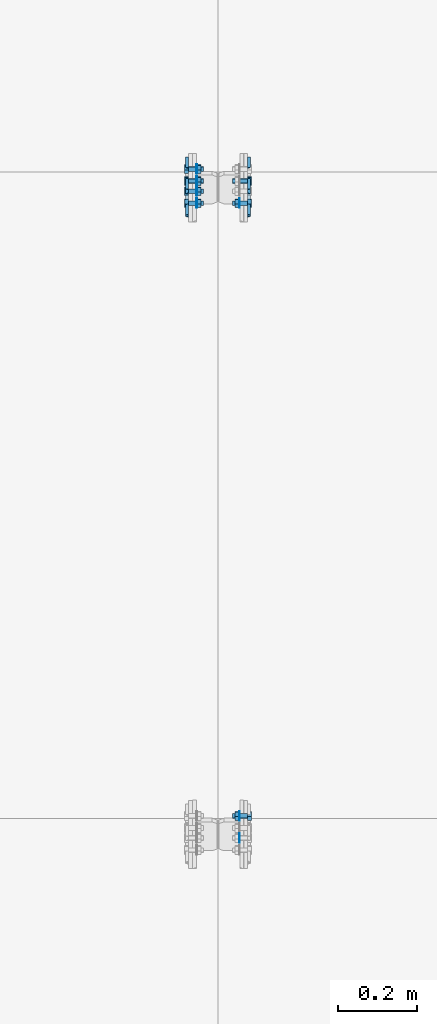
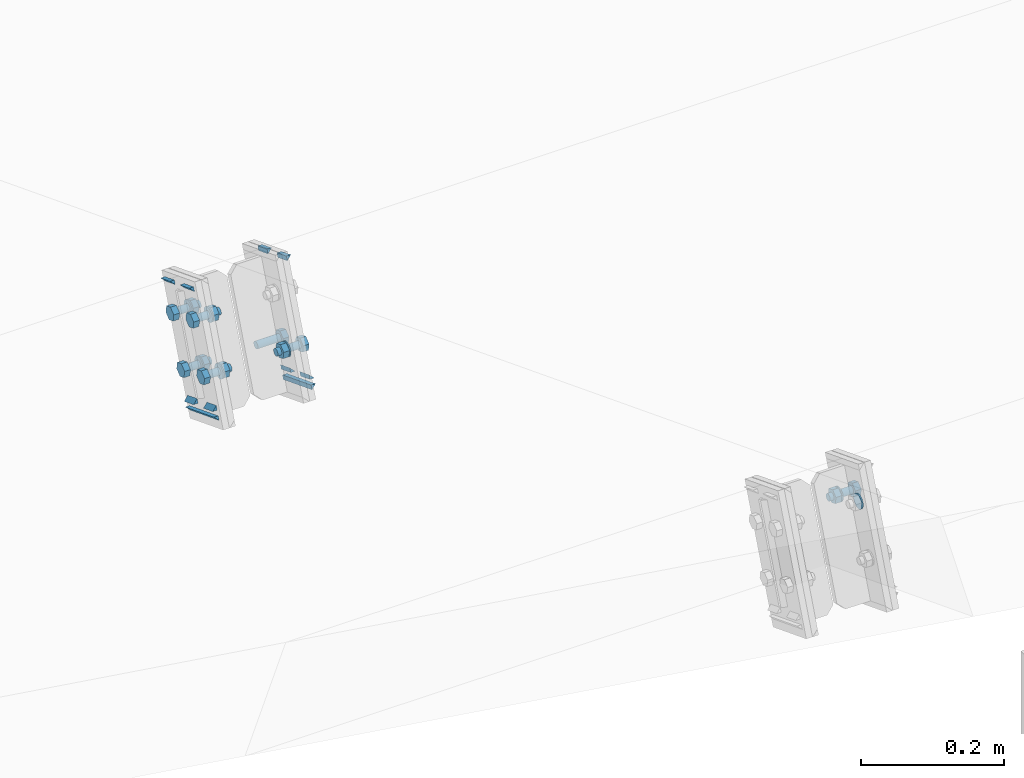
# One storey, part 38 of 72: 27 mechanical fasteners, 20 fasteners.
"""IFC4 building model written with IfcOpenShell, lengths in metres."""

from ifc_helpers import new_model, si_unit, frame, origin_with_axes, place, context, project, spatial, polyline, outline, extrude, type_object, element, save


model = new_model("IFC4")

# Units and contexts
model_context = context("Model", 3, precision=1e-05, world=origin_with_axes())
ifc_project = project(units=[si_unit("LENGTHUNIT", "METRE"), si_unit("AREAUNIT", "SQUARE_METRE"), si_unit("VOLUMEUNIT", "CUBIC_METRE"), si_unit("MASSUNIT", "GRAM", prefix="KILO"), si_unit("TIMEUNIT", "SECOND"), si_unit("PLANEANGLEUNIT", "RADIAN"), si_unit("SOLIDANGLEUNIT", "STERADIAN"), si_unit("THERMODYNAMICTEMPERATUREUNIT", "DEGREE_CELSIUS")], contexts=[model_context])

# Site, building, storey
placement_1 = place(None, origin_with_axes())
site = spatial("IfcSite", under=ifc_project, at=placement_1, Name="Italia", CompositionType="ELEMENT")
building = spatial("IfcBuilding", under=site, at=placement_1, Name="Uffici", CompositionType="ELEMENT")
storey = spatial("IfcBuildingStorey", under=building, at=placement_1, Name="Storey 0", CompositionType="ELEMENT", Elevation=0.0)

# Fasteners
fastener_type_1 = type_object("IfcFastenerType", Name="Collegamento -018_-017", PredefinedType="WELD")
placement_2 = place(placement_1, origin_with_axes())
fastener_1_placement = place(placement_2, origin_with_axes())
element("IfcFastener", 1, at=fastener_1_placement, inside=storey, type_object=fastener_type_1, Name="Collegamento -018_-017", context=model_context, shape_type="SweptSolid", body=[
    extrude(outline(polyline([(0.0, 0.0), (-0.00717354, 0.00695848), (0.0, 0.00695848), (0.0, 0.0)])), frame((6.68005, 3.30124, 5.94341), z_axis=(0.0, -0.93237841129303, 0.361483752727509), x_axis=(1.0, 0.0, 0.0)), (0.0, 0.0, 1.0), 0.0283002),
])
fastener_type_2 = type_object("IfcFastenerType", Name="Collegamento -018_-017", PredefinedType="WELD")
fastener_2_placement = place(placement_2, origin_with_axes())
element("IfcFastener", 2, at=fastener_2_placement, inside=storey, type_object=fastener_type_2, Name="Collegamento -018_-017", context=model_context, shape_type="SweptSolid", body=[
    extrude(outline(polyline([(0.0, 0.0), (0.00717354, -0.00695848), (0.0, -0.00695848), (0.0, 0.0)])), frame((6.68005, 3.2137, 5.79589), z_axis=(0.0, 0.932389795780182, -0.361454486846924), x_axis=(-1.0, 0.0, 0.0)), (0.0, 0.0, 1.0), 0.0282999),
])
fastener_type_3 = type_object("IfcFastenerType", Name="Collegamento -018_-017", PredefinedType="WELD")
fastener_3_placement = place(placement_2, origin_with_axes())
element("IfcFastener", 3, at=fastener_3_placement, inside=storey, type_object=fastener_type_3, Name="Collegamento -018_-017", context=model_context, shape_type="SweptSolid", body=[
    extrude(outline(polyline([(0.0, 0.0), (-0.00717354, 0.00695848), (0.0, 0.00695848), (0.0, 0.0)])), frame((6.68005, 3.23202, 5.76485), z_axis=(0.0, -0.932387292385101, 0.361460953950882), x_axis=(1.0, 0.0, 0.0)), (0.0, 0.0, 1.0), 0.0860998),
])
fastener_type_4 = type_object("IfcFastenerType", Name="Collegamento -018_-017", PredefinedType="WELD")
fastener_4_placement = place(placement_2, origin_with_axes())
element("IfcFastener", 4, at=fastener_4_placement, inside=storey, type_object=fastener_type_4, Name="Collegamento -018_-017", context=model_context, shape_type="SweptSolid", body=[
    extrude(outline(polyline([(0.0, 0.0), (0.00717354, -0.00695801), (0.0, -0.00695801), (0.0, 0.0)])), frame((6.68005, 3.1598, 5.81678), z_axis=(0.0, 0.932380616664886, -0.361478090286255), x_axis=(-1.0, 0.0, 0.0)), (0.0, 0.0, 1.0), 0.0283007),
])
fastener_type_5 = type_object("IfcFastenerType", Name="Collegamento -018_-017", PredefinedType="WELD")
fastener_5_placement = place(placement_2, origin_with_axes())
element("IfcFastener", 5, at=fastener_5_placement, inside=storey, type_object=fastener_type_5, Name="Collegamento -018_-017", context=model_context, shape_type="SweptSolid", body=[
    extrude(outline(polyline([(0.0, 0.0), (-0.00717354, 0.00695801), (0.0, 0.00695801), (0.0, 0.0)])), frame((6.68005, 3.24734, 5.9643), z_axis=(0.0, -0.932387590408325, 0.361460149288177), x_axis=(1.0, 0.0, 0.0)), (0.0, 0.0, 1.0), 0.0282994),
])
fastener_type_6 = type_object("IfcFastenerType", Name="Collegamento -018_-017", PredefinedType="WELD")
fastener_6_placement = place(placement_2, origin_with_axes())
element("IfcFastener", 6, at=fastener_6_placement, inside=storey, type_object=fastener_type_6, Name="Collegamento -018_-017", context=model_context, shape_type="SweptSolid", body=[
    extrude(outline(polyline([(0.0, 0.0), (-0.00717354, 0.00695848), (0.0, 0.00695848), (0.0, 0.0)])), frame((6.68005, 3.30124, 5.94341), z_axis=(0.0, -0.93237841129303, 0.361483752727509), x_axis=(1.0, 0.0, 0.0)), (0.0, 0.0, 1.0), 0.0283002),
])
fastener_type_7 = type_object("IfcFastenerType", Name="Collegamento -018_-017", PredefinedType="WELD")
fastener_7_placement = place(placement_2, origin_with_axes())
element("IfcFastener", 7, at=fastener_7_placement, inside=storey, type_object=fastener_type_7, Name="Collegamento -018_-017", context=model_context, shape_type="SweptSolid", body=[
    extrude(outline(polyline([(0.0, 0.0), (0.00717354, -0.00695848), (0.0, -0.00695848), (0.0, 0.0)])), frame((6.68005, 3.2137, 5.79589), z_axis=(0.0, 0.932389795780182, -0.361454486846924), x_axis=(-1.0, 0.0, 0.0)), (0.0, 0.0, 1.0), 0.0282999),
])
fastener_type_8 = type_object("IfcFastenerType", Name="Collegamento -018_-017", PredefinedType="WELD")
fastener_8_placement = place(placement_2, origin_with_axes())
element("IfcFastener", 8, at=fastener_8_placement, inside=storey, type_object=fastener_type_8, Name="Collegamento -018_-017", context=model_context, shape_type="SweptSolid", body=[
    extrude(outline(polyline([(0.0, 0.0), (-0.00717354, 0.00695848), (0.0, 0.00695848), (0.0, 0.0)])), frame((6.68005, 3.23202, 5.76485), z_axis=(0.0, -0.932387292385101, 0.361460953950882), x_axis=(1.0, 0.0, 0.0)), (0.0, 0.0, 1.0), 0.0860998),
])
fastener_type_9 = type_object("IfcFastenerType", Name="Collegamento -018_-017", PredefinedType="WELD")
fastener_9_placement = place(placement_2, origin_with_axes())
element("IfcFastener", 9, at=fastener_9_placement, inside=storey, type_object=fastener_type_9, Name="Collegamento -018_-017", context=model_context, shape_type="SweptSolid", body=[
    extrude(outline(polyline([(0.0, 0.0), (0.00717354, -0.00695801), (0.0, -0.00695801), (0.0, 0.0)])), frame((6.68005, 3.1598, 5.81678), z_axis=(0.0, 0.932380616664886, -0.361478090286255), x_axis=(-1.0, 0.0, 0.0)), (0.0, 0.0, 1.0), 0.0283007),
])
fastener_type_10 = type_object("IfcFastenerType", Name="Collegamento -018_-017", PredefinedType="WELD")
fastener_10_placement = place(placement_2, origin_with_axes())
element("IfcFastener", 10, at=fastener_10_placement, inside=storey, type_object=fastener_type_10, Name="Collegamento -018_-017", context=model_context, shape_type="SweptSolid", body=[
    extrude(outline(polyline([(0.0, 0.0), (-0.00717354, 0.00695801), (0.0, 0.00695801), (0.0, 0.0)])), frame((6.68005, 3.24734, 5.9643), z_axis=(0.0, -0.932387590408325, 0.361460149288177), x_axis=(1.0, 0.0, 0.0)), (0.0, 0.0, 1.0), 0.0282994),
])

# Mechanical fasteners
mechanical_fastener_type_1 = type_object("IfcMechanicalFastenerType", Name="Collegamento -018_-017", PredefinedType="BOLT")
mechanical_fastener_1_placement = place(placement_2, origin_with_axes())
element("IfcMechanicalFastener", 11, at=mechanical_fastener_1_placement, inside=storey, type_object=mechanical_fastener_type_1, Name="Collegamento -018_-017", NominalDiameter=0.0119999, context=model_context, shape_type="SweptSolid", body=[
    extrude(outline(polyline([(0.0, 0.0), (-0.0111887, -0.00433731), (-0.0205395, 0.00318336), (-0.0187016, 0.0150418), (-0.00751281, 0.0193796), (0.00183773, 0.0118585), (0.0, 0.0)])), frame((6.68, 3.23396, 5.82257), z_axis=(-1.0, 0.0, 0.0), x_axis=(0.0, -1.0, 0.0)), (0.0, 0.0, 1.0), 0.00960016),
])
mechanical_fastener_type_2 = type_object("IfcMechanicalFastenerType", Name="Collegamento -018_-017", PredefinedType="BOLT")
mechanical_fastener_2_placement = place(placement_2, origin_with_axes())
element("IfcMechanicalFastener", 12, at=mechanical_fastener_2_placement, inside=storey, type_object=mechanical_fastener_type_2, Name="Collegamento -018_-017", NominalDiameter=0.012, context=model_context, shape_type="SweptSolid", body=[
    extrude(outline(polyline([(0.0, 0.0), (-0.000204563, -0.00155306), (-0.000803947, -0.00299978), (-0.00175738, -0.00424242), (-0.00300002, -0.00519609), (-0.00444722, -0.00579548), (-0.00600004, -0.00600004), (-0.00755286, -0.00579548), (-0.00900006, -0.00519609), (-0.0102427, -0.00424242), (-0.0111961, -0.00299978), (-0.0117955, -0.00155306), (-0.0120001, 0.0), (-0.0117955, 0.00155306), (-0.0111961, 0.00299978), (-0.0102427, 0.00424242), (-0.00900006, 0.00519609), (-0.00755286, 0.00579548), (-0.00600004, 0.00600004), (-0.00444722, 0.00579548), (-0.00300002, 0.00519609), (-0.00175738, 0.00424242), (-0.000803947, 0.00299978), (-0.000204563, 0.00155306), (0.0, 0.0)])), frame((6.718, 3.23731, 5.83009), z_axis=(-1.0, 0.0, 0.0), x_axis=(0.0, -1.0, 0.0)), (0.0, 0.0, 1.0), 0.0380001),
])
mechanical_fastener_type_3 = type_object("IfcMechanicalFastenerType", Name="Collegamento -018_-017", PredefinedType="BOLT")
mechanical_fastener_3_placement = place(placement_2, origin_with_axes())
element("IfcMechanicalFastener", 13, at=mechanical_fastener_3_placement, inside=storey, type_object=mechanical_fastener_type_3, Name="Collegamento -018_-017", NominalDiameter=0.0119999, context=model_context, shape_type="SweptSolid", body=[
    extrude(outline(polyline([(0.0, 0.0), (-0.0111887, -0.00433731), (-0.0205395, 0.00318336), (-0.0187016, 0.0150418), (-0.00751281, 0.0193796), (0.00183773, 0.0118585), (0.0, 0.0)])), frame((6.7116, 3.23396, 5.82257), z_axis=(-1.0, 0.0, 0.0), x_axis=(0.0, -1.0, 0.0)), (0.0, 0.0, 1.0), 0.00960016),
])
mechanical_fastener_type_4 = type_object("IfcMechanicalFastenerType", Name="Collegamento -018_-017", PredefinedType="BOLT")
mechanical_fastener_4_placement = place(placement_2, origin_with_axes())
element("IfcMechanicalFastener", 14, at=mechanical_fastener_4_placement, inside=storey, type_object=mechanical_fastener_type_4, Name="Collegamento -018_-017", NominalDiameter=0.024, context=model_context, shape_type="SweptSolid", body=[
    extrude(outline(polyline([(0.0, 0.0), (-0.000408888, -0.00310564), (-0.00160789, -0.00600004), (-0.00351477, -0.00848532), (-0.00600004, -0.0103922), (-0.00889421, -0.011591), (-0.0120001, -0.0120001), (-0.015106, -0.011591), (-0.0180001, -0.0103922), (-0.0204854, -0.00848532), (-0.0223923, -0.00600004), (-0.0235913, -0.00310564), (-0.0240002, 0.0), (-0.0235913, 0.00310564), (-0.0223923, 0.00600004), (-0.0204854, 0.00848532), (-0.0180001, 0.0103922), (-0.015106, 0.011591), (-0.0120001, 0.0120001), (-0.00889421, 0.011591), (-0.00600004, 0.0103922), (-0.00351477, 0.00848532), (-0.00160789, 0.00600004), (-0.000408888, 0.00310564), (0.0, 0.0)])), frame((6.702, 3.23131, 5.83009), z_axis=(-1.0, 0.0, 0.0), x_axis=(0.0, -1.0, 0.0)), (0.0, 0.0, 1.0), 0.00199986),
])
mechanical_fastener_type_5 = type_object("IfcMechanicalFastenerType", Name="Collegamento -018_-017", PredefinedType="BOLT")
mechanical_fastener_5_placement = place(placement_2, origin_with_axes())
element("IfcMechanicalFastener", 15, at=mechanical_fastener_5_placement, inside=storey, type_object=mechanical_fastener_type_5, Name="Collegamento -018_-017", NominalDiameter=0.0119997, context=model_context, shape_type="SweptSolid", body=[
    extrude(outline(polyline([(0.0, 0.0), (-0.0111887, -0.00433779), (-0.0205395, 0.00318336), (-0.0187016, 0.0150418), (-0.00751281, 0.0193791), (0.00183773, 0.0118585), (0.0, 0.0)])), frame((6.68, 3.17802, 5.84426), z_axis=(-1.0, 0.0, 0.0), x_axis=(0.0, -1.0, 0.0)), (0.0, 0.0, 1.0), 0.00960016),
])
mechanical_fastener_type_6 = type_object("IfcMechanicalFastenerType", Name="Collegamento -018_-017", PredefinedType="BOLT")
mechanical_fastener_6_placement = place(placement_2, origin_with_axes())
element("IfcMechanicalFastener", 16, at=mechanical_fastener_6_placement, inside=storey, type_object=mechanical_fastener_type_6, Name="Collegamento -018_-017", NominalDiameter=0.012, context=model_context, shape_type="SweptSolid", body=[
    extrude(outline(polyline([(0.0, 0.0), (-0.000204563, -0.00155306), (-0.000803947, -0.00299978), (-0.00175738, -0.00424242), (-0.00300002, -0.00519609), (-0.00444722, -0.00579548), (-0.00600004, -0.00600004), (-0.00755286, -0.00579548), (-0.00900006, -0.00519609), (-0.0102427, -0.00424242), (-0.0111961, -0.00299978), (-0.0117955, -0.00155306), (-0.0120001, 0.0), (-0.0117955, 0.00155306), (-0.0111961, 0.00299978), (-0.0102427, 0.00424242), (-0.00900006, 0.00519609), (-0.00755286, 0.00579548), (-0.00600004, 0.00600004), (-0.00444722, 0.00579548), (-0.00300002, 0.00519609), (-0.00175738, 0.00424242), (-0.000803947, 0.00299978), (-0.000204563, 0.00155306), (0.0, 0.0)])), frame((6.718, 3.18137, 5.85178), z_axis=(-1.0, 0.0, 0.0), x_axis=(0.0, -1.0, 0.0)), (0.0, 0.0, 1.0), 0.0380001),
])
mechanical_fastener_type_7 = type_object("IfcMechanicalFastenerType", Name="Collegamento -018_-017", PredefinedType="BOLT")
mechanical_fastener_7_placement = place(placement_2, origin_with_axes())
element("IfcMechanicalFastener", 17, at=mechanical_fastener_7_placement, inside=storey, type_object=mechanical_fastener_type_7, Name="Collegamento -018_-017", NominalDiameter=0.0119997, context=model_context, shape_type="SweptSolid", body=[
    extrude(outline(polyline([(0.0, 0.0), (-0.0111887, -0.00433779), (-0.0205395, 0.00318336), (-0.0187016, 0.0150418), (-0.00751281, 0.0193791), (0.00183773, 0.0118585), (0.0, 0.0)])), frame((6.7116, 3.17802, 5.84426), z_axis=(-1.0, 0.0, 0.0), x_axis=(0.0, -1.0, 0.0)), (0.0, 0.0, 1.0), 0.00960016),
])
mechanical_fastener_type_8 = type_object("IfcMechanicalFastenerType", Name="Collegamento -018_-017", PredefinedType="BOLT")
mechanical_fastener_8_placement = place(placement_2, origin_with_axes())
element("IfcMechanicalFastener", 18, at=mechanical_fastener_8_placement, inside=storey, type_object=mechanical_fastener_type_8, Name="Collegamento -018_-017", NominalDiameter=0.024, context=model_context, shape_type="SweptSolid", body=[
    extrude(outline(polyline([(0.0, 0.0), (-0.000408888, -0.00310564), (-0.00160789, -0.00600004), (-0.00351477, -0.00848532), (-0.00600004, -0.0103922), (-0.00889421, -0.011591), (-0.0120001, -0.0120001), (-0.015106, -0.011591), (-0.0180001, -0.0103922), (-0.0204854, -0.00848532), (-0.0223923, -0.00600004), (-0.0235913, -0.00310564), (-0.0240002, 0.0), (-0.0235913, 0.00310564), (-0.0223923, 0.00600004), (-0.0204854, 0.00848532), (-0.0180001, 0.0103922), (-0.015106, 0.011591), (-0.0120001, 0.0120001), (-0.00889421, 0.011591), (-0.00600004, 0.0103922), (-0.00351477, 0.00848532), (-0.00160789, 0.00600004), (-0.000408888, 0.00310564), (0.0, 0.0)])), frame((6.702, 3.17537, 5.85178), z_axis=(-1.0, 0.0, 0.0), x_axis=(0.0, -1.0, 0.0)), (0.0, 0.0, 1.0), 0.00199986),
])
mechanical_fastener_type_9 = type_object("IfcMechanicalFastenerType", Name="Collegamento -018_-017", PredefinedType="BOLT")
mechanical_fastener_9_placement = place(placement_2, origin_with_axes())
element("IfcMechanicalFastener", 19, at=mechanical_fastener_9_placement, inside=storey, type_object=mechanical_fastener_type_9, Name="Collegamento -018_-017", NominalDiameter=0.0119997, context=model_context, shape_type="SweptSolid", body=[
    extrude(outline(polyline([(0.0, 0.0), (-0.0111887, -0.00433731), (-0.0205393, 0.00318336), (-0.0187016, 0.0150418), (-0.00751281, 0.0193796), (0.00183797, 0.0118585), (0.0, 0.0)])), frame((6.68, 3.26432, 5.90089), z_axis=(-1.0, 0.0, 0.0), x_axis=(0.0, -1.0, 0.0)), (0.0, 0.0, 1.0), 0.00960016),
])
mechanical_fastener_type_10 = type_object("IfcMechanicalFastenerType", Name="Collegamento -018_-017", PredefinedType="BOLT")
mechanical_fastener_10_placement = place(placement_2, origin_with_axes())
element("IfcMechanicalFastener", 20, at=mechanical_fastener_10_placement, inside=storey, type_object=mechanical_fastener_type_10, Name="Collegamento -018_-017", NominalDiameter=0.012, context=model_context, shape_type="SweptSolid", body=[
    extrude(outline(polyline([(0.0, 0.0), (-0.000204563, -0.00155306), (-0.000803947, -0.00299978), (-0.00175738, -0.00424242), (-0.00300002, -0.00519609), (-0.00444722, -0.00579548), (-0.00600004, -0.00600004), (-0.00755286, -0.00579548), (-0.00900006, -0.00519609), (-0.0102427, -0.00424242), (-0.0111961, -0.00299978), (-0.0117955, -0.00155306), (-0.0120001, 0.0), (-0.0117955, 0.00155306), (-0.0111961, 0.00299978), (-0.0102427, 0.00424242), (-0.00900006, 0.00519609), (-0.00755286, 0.00579548), (-0.00600004, 0.00600004), (-0.00444722, 0.00579548), (-0.00300002, 0.00519609), (-0.00175738, 0.00424242), (-0.000803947, 0.00299978), (-0.000204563, 0.00155306), (0.0, 0.0)])), frame((6.718, 3.26767, 5.90841), z_axis=(-1.0, 0.0, 0.0), x_axis=(0.0, -1.0, 0.0)), (0.0, 0.0, 1.0), 0.0380001),
])
mechanical_fastener_type_11 = type_object("IfcMechanicalFastenerType", Name="Collegamento -018_-017", PredefinedType="BOLT")
mechanical_fastener_11_placement = place(placement_2, origin_with_axes())
element("IfcMechanicalFastener", 21, at=mechanical_fastener_11_placement, inside=storey, type_object=mechanical_fastener_type_11, Name="Collegamento -018_-017", NominalDiameter=0.0119997, context=model_context, shape_type="SweptSolid", body=[
    extrude(outline(polyline([(0.0, 0.0), (-0.0111887, -0.00433731), (-0.0205393, 0.00318336), (-0.0187016, 0.0150418), (-0.00751281, 0.0193796), (0.00183797, 0.0118585), (0.0, 0.0)])), frame((6.7116, 3.26432, 5.90089), z_axis=(-1.0, 0.0, 0.0), x_axis=(0.0, -1.0, 0.0)), (0.0, 0.0, 1.0), 0.00960016),
])
mechanical_fastener_type_12 = type_object("IfcMechanicalFastenerType", Name="Collegamento -018_-017", PredefinedType="BOLT")
mechanical_fastener_12_placement = place(placement_2, origin_with_axes())
element("IfcMechanicalFastener", 22, at=mechanical_fastener_12_placement, inside=storey, type_object=mechanical_fastener_type_12, Name="Collegamento -018_-017", NominalDiameter=0.024, context=model_context, shape_type="SweptSolid", body=[
    extrude(outline(polyline([(0.0, 0.0), (-0.000408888, -0.00310564), (-0.00160789, -0.00600004), (-0.00351477, -0.00848532), (-0.00600004, -0.0103922), (-0.00889421, -0.011591), (-0.0120001, -0.0120001), (-0.015106, -0.011591), (-0.0180001, -0.0103922), (-0.0204854, -0.00848532), (-0.0223923, -0.00600004), (-0.0235913, -0.00310564), (-0.0240002, 0.0), (-0.0235913, 0.00310564), (-0.0223923, 0.00600004), (-0.0204854, 0.00848532), (-0.0180001, 0.0103922), (-0.015106, 0.011591), (-0.0120001, 0.0120001), (-0.00889421, 0.011591), (-0.00600004, 0.0103922), (-0.00351477, 0.00848532), (-0.00160789, 0.00600004), (-0.000408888, 0.00310564), (0.0, 0.0)])), frame((6.702, 3.26167, 5.90841), z_axis=(-1.0, 0.0, 0.0), x_axis=(0.0, -1.0, 0.0)), (0.0, 0.0, 1.0), 0.00199986),
])
mechanical_fastener_type_13 = type_object("IfcMechanicalFastenerType", Name="Collegamento -018_-017", PredefinedType="BOLT")
mechanical_fastener_13_placement = place(placement_2, origin_with_axes())
element("IfcMechanicalFastener", 23, at=mechanical_fastener_13_placement, inside=storey, type_object=mechanical_fastener_type_13, Name="Collegamento -018_-017", NominalDiameter=0.0119999, context=model_context, shape_type="SweptSolid", body=[
    extrude(outline(polyline([(0.0, 0.0), (-0.0111887, -0.00433779), (-0.0205393, 0.00318336), (-0.0187016, 0.0150418), (-0.00751281, 0.0193791), (0.00183797, 0.0118585), (0.0, 0.0)])), frame((6.68, 3.20838, 5.92258), z_axis=(-1.0, 0.0, 0.0), x_axis=(0.0, -1.0, 0.0)), (0.0, 0.0, 1.0), 0.00960016),
])
mechanical_fastener_type_14 = type_object("IfcMechanicalFastenerType", Name="Collegamento -018_-017", PredefinedType="BOLT")
mechanical_fastener_14_placement = place(placement_2, origin_with_axes())
element("IfcMechanicalFastener", 24, at=mechanical_fastener_14_placement, inside=storey, type_object=mechanical_fastener_type_14, Name="Collegamento -018_-017", NominalDiameter=0.012, context=model_context, shape_type="SweptSolid", body=[
    extrude(outline(polyline([(0.0, 0.0), (-0.000204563, -0.00155306), (-0.000803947, -0.00299978), (-0.00175738, -0.00424242), (-0.00300002, -0.00519609), (-0.00444722, -0.00579548), (-0.00600004, -0.00600004), (-0.00755286, -0.00579548), (-0.00900006, -0.00519609), (-0.0102427, -0.00424242), (-0.0111961, -0.00299978), (-0.0117955, -0.00155306), (-0.0120001, 0.0), (-0.0117955, 0.00155306), (-0.0111961, 0.00299978), (-0.0102427, 0.00424242), (-0.00900006, 0.00519609), (-0.00755286, 0.00579548), (-0.00600004, 0.00600004), (-0.00444722, 0.00579548), (-0.00300002, 0.00519609), (-0.00175738, 0.00424242), (-0.000803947, 0.00299978), (-0.000204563, 0.00155306), (0.0, 0.0)])), frame((6.718, 3.21173, 5.9301), z_axis=(-1.0, 0.0, 0.0), x_axis=(0.0, -1.0, 0.0)), (0.0, 0.0, 1.0), 0.0380001),
])
mechanical_fastener_type_15 = type_object("IfcMechanicalFastenerType", Name="Collegamento -018_-017", PredefinedType="BOLT")
mechanical_fastener_15_placement = place(placement_2, origin_with_axes())
element("IfcMechanicalFastener", 25, at=mechanical_fastener_15_placement, inside=storey, type_object=mechanical_fastener_type_15, Name="Collegamento -018_-017", NominalDiameter=0.0119999, context=model_context, shape_type="SweptSolid", body=[
    extrude(outline(polyline([(0.0, 0.0), (-0.0111887, -0.00433779), (-0.0205393, 0.00318336), (-0.0187016, 0.0150418), (-0.00751281, 0.0193791), (0.00183797, 0.0118585), (0.0, 0.0)])), frame((6.7116, 3.20838, 5.92258), z_axis=(-1.0, 0.0, 0.0), x_axis=(0.0, -1.0, 0.0)), (0.0, 0.0, 1.0), 0.00960016),
])
mechanical_fastener_type_16 = type_object("IfcMechanicalFastenerType", Name="Collegamento -018_-017", PredefinedType="BOLT")
mechanical_fastener_16_placement = place(placement_2, origin_with_axes())
element("IfcMechanicalFastener", 26, at=mechanical_fastener_16_placement, inside=storey, type_object=mechanical_fastener_type_16, Name="Collegamento -018_-017", NominalDiameter=0.024, context=model_context, shape_type="SweptSolid", body=[
    extrude(outline(polyline([(0.0, 0.0), (-0.000408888, -0.00310564), (-0.00160789, -0.00600004), (-0.00351477, -0.00848532), (-0.00600004, -0.0103922), (-0.00889421, -0.011591), (-0.0120001, -0.0120001), (-0.015106, -0.011591), (-0.0180001, -0.0103922), (-0.0204854, -0.00848532), (-0.0223923, -0.00600004), (-0.0235913, -0.00310564), (-0.0240002, 0.0), (-0.0235913, 0.00310564), (-0.0223923, 0.00600004), (-0.0204854, 0.00848532), (-0.0180001, 0.0103922), (-0.015106, 0.011591), (-0.0120001, 0.0120001), (-0.00889421, 0.011591), (-0.00600004, 0.0103922), (-0.00351477, 0.00848532), (-0.00160789, 0.00600004), (-0.000408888, 0.00310564), (0.0, 0.0)])), frame((6.702, 3.20573, 5.9301), z_axis=(-1.0, 0.0, 0.0), x_axis=(0.0, -1.0, 0.0)), (0.0, 0.0, 1.0), 0.00199986),
])

# Fasteners
fastener_type_11 = type_object("IfcFastenerType", Name="Collegamento -018_-019", PredefinedType="WELD")
fastener_11_placement = place(placement_2, origin_with_axes())
element("IfcFastener", 27, at=fastener_11_placement, inside=storey, type_object=fastener_type_11, Name="Collegamento -018_-019", context=model_context, shape_type="SweptSolid", body=[
    extrude(outline(polyline([(0.0, 0.0), (-0.00717354, 0.00695801), (0.0, 0.00695801), (0.0, 0.0)])), frame((6.82995, 3.27485, 5.95364), z_axis=(0.0, 0.93237841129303, -0.361483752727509), x_axis=(-1.0, 0.0, 0.0)), (0.0, 0.0, 1.0), 0.0283002),
])
fastener_type_12 = type_object("IfcFastenerType", Name="Collegamento -018_-019", PredefinedType="WELD")
fastener_12_placement = place(placement_2, origin_with_axes())
element("IfcFastener", 28, at=fastener_12_placement, inside=storey, type_object=fastener_type_12, Name="Collegamento -018_-019", context=model_context, shape_type="SweptSolid", body=[
    extrude(outline(polyline([(0.0, 0.0), (0.00717354, -0.00695801), (0.0, -0.00695801), (0.0, 0.0)])), frame((6.82995, 3.24008, 5.78566), z_axis=(0.0, -0.932389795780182, 0.361454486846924), x_axis=(1.0, 0.0, 0.0)), (0.0, 0.0, 1.0), 0.0282999),
])
fastener_type_13 = type_object("IfcFastenerType", Name="Collegamento -018_-019", PredefinedType="WELD")
fastener_13_placement = place(placement_2, origin_with_axes())
element("IfcFastener", 29, at=fastener_13_placement, inside=storey, type_object=fastener_type_13, Name="Collegamento -018_-019", context=model_context, shape_type="SweptSolid", body=[
    extrude(outline(polyline([(0.0, 0.0), (-0.00717354, 0.00695848), (0.0, 0.00695848), (0.0, 0.0)])), frame((6.82995, 3.15174, 5.79598), z_axis=(0.0, 0.932387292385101, -0.361460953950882), x_axis=(-1.0, 0.0, 0.0)), (0.0, 0.0, 1.0), 0.0860998),
])
fastener_type_14 = type_object("IfcFastenerType", Name="Collegamento -018_-019", PredefinedType="WELD")
fastener_14_placement = place(placement_2, origin_with_axes())
element("IfcFastener", 30, at=fastener_14_placement, inside=storey, type_object=fastener_type_14, Name="Collegamento -018_-019", context=model_context, shape_type="SweptSolid", body=[
    extrude(outline(polyline([(0.0, 0.0), (0.00717354, -0.00695753), (0.0, -0.00695753), (0.0, 0.0)])), frame((6.82995, 3.18619, 5.80655), z_axis=(0.0, -0.932380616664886, 0.361478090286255), x_axis=(1.0, 0.0, 0.0)), (0.0, 0.0, 1.0), 0.0283007),
])
fastener_type_15 = type_object("IfcFastenerType", Name="Collegamento -018_-019", PredefinedType="WELD")
fastener_15_placement = place(placement_2, origin_with_axes())
element("IfcFastener", 31, at=fastener_15_placement, inside=storey, type_object=fastener_type_15, Name="Collegamento -018_-019", context=model_context, shape_type="SweptSolid", body=[
    extrude(outline(polyline([(0.0, 0.0), (-0.00717354, 0.00695801), (0.0, 0.00695801), (0.0, 0.0)])), frame((6.82995, 3.22096, 5.97453), z_axis=(0.0, 0.932388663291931, -0.361457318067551), x_axis=(-1.0, 0.0, 0.0)), (0.0, 0.0, 1.0), 0.0282996),
])
fastener_type_16 = type_object("IfcFastenerType", Name="Collegamento -018_-019", PredefinedType="WELD")
fastener_16_placement = place(placement_2, origin_with_axes())
element("IfcFastener", 32, at=fastener_16_placement, inside=storey, type_object=fastener_type_16, Name="Collegamento -018_-019", context=model_context, shape_type="SweptSolid", body=[
    extrude(outline(polyline([(0.0, 0.0), (-0.00717354, 0.00695801), (0.0, 0.00695801), (0.0, 0.0)])), frame((6.82995, 3.27485, 5.95364), z_axis=(0.0, 0.93237841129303, -0.361483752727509), x_axis=(-1.0, 0.0, 0.0)), (0.0, 0.0, 1.0), 0.0283002),
])
fastener_type_17 = type_object("IfcFastenerType", Name="Collegamento -018_-019", PredefinedType="WELD")
fastener_17_placement = place(placement_2, origin_with_axes())
element("IfcFastener", 33, at=fastener_17_placement, inside=storey, type_object=fastener_type_17, Name="Collegamento -018_-019", context=model_context, shape_type="SweptSolid", body=[
    extrude(outline(polyline([(0.0, 0.0), (0.00717354, -0.00695801), (0.0, -0.00695801), (0.0, 0.0)])), frame((6.82995, 3.24008, 5.78566), z_axis=(0.0, -0.932389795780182, 0.361454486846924), x_axis=(1.0, 0.0, 0.0)), (0.0, 0.0, 1.0), 0.0282999),
])
fastener_type_18 = type_object("IfcFastenerType", Name="Collegamento -018_-019", PredefinedType="WELD")
fastener_18_placement = place(placement_2, origin_with_axes())
element("IfcFastener", 34, at=fastener_18_placement, inside=storey, type_object=fastener_type_18, Name="Collegamento -018_-019", context=model_context, shape_type="SweptSolid", body=[
    extrude(outline(polyline([(0.0, 0.0), (-0.00717354, 0.00695848), (0.0, 0.00695848), (0.0, 0.0)])), frame((6.82995, 3.15174, 5.79598), z_axis=(0.0, 0.932387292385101, -0.361460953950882), x_axis=(-1.0, 0.0, 0.0)), (0.0, 0.0, 1.0), 0.0860998),
])
fastener_type_19 = type_object("IfcFastenerType", Name="Collegamento -018_-019", PredefinedType="WELD")
fastener_19_placement = place(placement_2, origin_with_axes())
element("IfcFastener", 35, at=fastener_19_placement, inside=storey, type_object=fastener_type_19, Name="Collegamento -018_-019", context=model_context, shape_type="SweptSolid", body=[
    extrude(outline(polyline([(0.0, 0.0), (0.00717354, -0.00695753), (0.0, -0.00695753), (0.0, 0.0)])), frame((6.82995, 3.18619, 5.80655), z_axis=(0.0, -0.932380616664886, 0.361478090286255), x_axis=(1.0, 0.0, 0.0)), (0.0, 0.0, 1.0), 0.0283007),
])
fastener_type_20 = type_object("IfcFastenerType", Name="Collegamento -018_-019", PredefinedType="WELD")
fastener_20_placement = place(placement_2, origin_with_axes())
element("IfcFastener", 36, at=fastener_20_placement, inside=storey, type_object=fastener_type_20, Name="Collegamento -018_-019", context=model_context, shape_type="SweptSolid", body=[
    extrude(outline(polyline([(0.0, 0.0), (-0.00717354, 0.00695801), (0.0, 0.00695801), (0.0, 0.0)])), frame((6.82995, 3.22096, 5.97453), z_axis=(0.0, 0.932388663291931, -0.361457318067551), x_axis=(-1.0, 0.0, 0.0)), (0.0, 0.0, 1.0), 0.0282996),
])

# Mechanical fasteners
mechanical_fastener_type_17 = type_object("IfcMechanicalFastenerType", Name="Collegamento -018_-019", PredefinedType="BOLT")
mechanical_fastener_17_placement = place(placement_2, origin_with_axes())
element("IfcMechanicalFastener", 37, at=mechanical_fastener_17_placement, inside=storey, type_object=mechanical_fastener_type_17, Name="Collegamento -018_-019", NominalDiameter=0.0119997, context=model_context, shape_type="SweptSolid", body=[
    extrude(outline(polyline([(0.0, 0.0), (-0.0111887, 0.00433779), (-0.0130265, 0.0161963), (-0.00367594, 0.0237169), (0.00751281, 0.0193796), (0.00935078, 0.00752115), (0.0, 0.0)])), frame((6.83, 3.18921, 5.83992), z_axis=(1.0, 0.0, 0.0), x_axis=(0.0, 1.0, 0.0)), (0.0, 0.0, 1.0), 0.00960016),
])
mechanical_fastener_type_18 = type_object("IfcMechanicalFastenerType", Name="Collegamento -018_-019", PredefinedType="BOLT")
mechanical_fastener_18_placement = place(placement_2, origin_with_axes())
element("IfcMechanicalFastener", 38, at=mechanical_fastener_18_placement, inside=storey, type_object=mechanical_fastener_type_18, Name="Collegamento -018_-019", NominalDiameter=0.012, context=model_context, shape_type="SweptSolid", body=[
    extrude(outline(polyline([(0.0, 0.0), (-0.000204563, -0.00155306), (-0.000803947, -0.00299978), (-0.00175738, -0.00424242), (-0.00300002, -0.00519609), (-0.00444722, -0.00579548), (-0.00600004, -0.00600004), (-0.00755286, -0.00579548), (-0.00900006, -0.00519609), (-0.0102427, -0.00424242), (-0.0111961, -0.00299978), (-0.0117955, -0.00155306), (-0.0120001, 0.0), (-0.0117955, 0.00155306), (-0.0111961, 0.00299978), (-0.0102427, 0.00424242), (-0.00900006, 0.00519609), (-0.00755286, 0.00579548), (-0.00600004, 0.00600004), (-0.00444722, 0.00579548), (-0.00300002, 0.00519609), (-0.00175738, 0.00424242), (-0.000803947, 0.00299978), (-0.000204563, 0.00155306), (0.0, 0.0)])), frame((6.792, 3.19337, 5.85178), z_axis=(1.0, 0.0, 0.0), x_axis=(0.0, 1.0, 0.0)), (0.0, 0.0, 1.0), 0.0380001),
])
mechanical_fastener_type_19 = type_object("IfcMechanicalFastenerType", Name="Collegamento -018_-019", PredefinedType="BOLT")
mechanical_fastener_19_placement = place(placement_2, origin_with_axes())
element("IfcMechanicalFastener", 39, at=mechanical_fastener_19_placement, inside=storey, type_object=mechanical_fastener_type_19, Name="Collegamento -018_-019", NominalDiameter=0.0119997, context=model_context, shape_type="SweptSolid", body=[
    extrude(outline(polyline([(0.0, 0.0), (-0.0111887, 0.00433779), (-0.0130265, 0.0161963), (-0.00367594, 0.0237169), (0.00751281, 0.0193796), (0.00935078, 0.00752115), (0.0, 0.0)])), frame((6.7984, 3.18921, 5.83992), z_axis=(1.0, 0.0, 0.0), x_axis=(0.0, 1.0, 0.0)), (0.0, 0.0, 1.0), 0.00960016),
])
mechanical_fastener_type_20 = type_object("IfcMechanicalFastenerType", Name="Collegamento -018_-019", PredefinedType="BOLT")
mechanical_fastener_20_placement = place(placement_2, origin_with_axes())
element("IfcMechanicalFastener", 40, at=mechanical_fastener_20_placement, inside=storey, type_object=mechanical_fastener_type_20, Name="Collegamento -018_-019", NominalDiameter=0.024, context=model_context, shape_type="SweptSolid", body=[
    extrude(outline(polyline([(0.0, 0.0), (-0.000408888, -0.00310564), (-0.00160789, -0.00600004), (-0.00351477, -0.00848532), (-0.00600004, -0.0103922), (-0.00889421, -0.011591), (-0.0120001, -0.0120001), (-0.015106, -0.011591), (-0.0180001, -0.0103922), (-0.0204854, -0.00848532), (-0.0223923, -0.00600004), (-0.0235913, -0.00310564), (-0.0240002, 0.0), (-0.0235913, 0.00310564), (-0.0223923, 0.00600004), (-0.0204854, 0.00848532), (-0.0180001, 0.0103922), (-0.015106, 0.011591), (-0.0120001, 0.0120001), (-0.00889421, 0.011591), (-0.00600004, 0.0103922), (-0.00351477, 0.00848532), (-0.00160789, 0.00600004), (-0.000408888, 0.00310564), (0.0, 0.0)])), frame((6.808, 3.19937, 5.85178), z_axis=(1.0, 0.0, 0.0), x_axis=(0.0, 1.0, 0.0)), (0.0, 0.0, 1.0), 0.00199986),
])
mechanical_fastener_type_21 = type_object("IfcMechanicalFastenerType", Name="Collegamento -018_-019", PredefinedType="BOLT")
mechanical_fastener_21_placement = place(placement_2, origin_with_axes())
element("IfcMechanicalFastener", 41, at=mechanical_fastener_21_placement, inside=storey, type_object=mechanical_fastener_type_21, Name="Collegamento -018_-019", NominalDiameter=0.0119999, context=model_context, shape_type="SweptSolid", body=[
    extrude(outline(polyline([(0.0, 0.0), (-0.0111887, 0.00433731), (-0.0130265, 0.0161958), (-0.00367594, 0.0237169), (0.00751281, 0.0193791), (0.00935078, 0.00752068), (0.0, 0.0)])), frame((6.83, 3.24515, 5.81823), z_axis=(1.0, 0.0, 0.0), x_axis=(0.0, 1.0, 0.0)), (0.0, 0.0, 1.0), 0.00960016),
])
mechanical_fastener_type_22 = type_object("IfcMechanicalFastenerType", Name="Collegamento -018_-019", PredefinedType="BOLT")
mechanical_fastener_22_placement = place(placement_2, origin_with_axes())
element("IfcMechanicalFastener", 42, at=mechanical_fastener_22_placement, inside=storey, type_object=mechanical_fastener_type_22, Name="Collegamento -018_-019", NominalDiameter=0.012, context=model_context, shape_type="SweptSolid", body=[
    extrude(outline(polyline([(0.0, 0.0), (-0.000204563, -0.00155306), (-0.000803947, -0.00299978), (-0.00175738, -0.00424242), (-0.00300002, -0.00519609), (-0.00444722, -0.00579548), (-0.00600004, -0.00600004), (-0.00755286, -0.00579548), (-0.00900006, -0.00519609), (-0.0102427, -0.00424242), (-0.0111961, -0.00299978), (-0.0117955, -0.00155306), (-0.0120001, 0.0), (-0.0117955, 0.00155306), (-0.0111961, 0.00299978), (-0.0102427, 0.00424242), (-0.00900006, 0.00519609), (-0.00755286, 0.00579548), (-0.00600004, 0.00600004), (-0.00444722, 0.00579548), (-0.00300002, 0.00519609), (-0.00175738, 0.00424242), (-0.000803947, 0.00299978), (-0.000204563, 0.00155306), (0.0, 0.0)])), frame((6.792, 3.24931, 5.83009), z_axis=(1.0, 0.0, 0.0), x_axis=(0.0, 1.0, 0.0)), (0.0, 0.0, 1.0), 0.0380001),
])
mechanical_fastener_type_23 = type_object("IfcMechanicalFastenerType", Name="Collegamento -028_-029", PredefinedType="BOLT")
mechanical_fastener_23_placement = place(placement_2, origin_with_axes())
element("IfcMechanicalFastener", 43, at=mechanical_fastener_23_placement, inside=storey, type_object=mechanical_fastener_type_23, Name="Collegamento -028_-029", NominalDiameter=0.024, context=model_context, shape_type="SweptSolid", body=[
    extrude(outline(polyline([(0.0, 0.0), (-0.000408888, -0.00310564), (-0.00160766, -0.00600004), (-0.00351465, -0.00848532), (-0.00599992, -0.0103922), (-0.00889409, -0.011591), (-0.012, -0.0120001), (-0.0151058, -0.011591), (-0.018, -0.0103922), (-0.0204853, -0.00848532), (-0.0223923, -0.00600004), (-0.023591, -0.00310564), (-0.0239999, 0.0), (-0.023591, 0.00310564), (-0.0223923, 0.00600004), (-0.0204853, 0.00848532), (-0.018, 0.0103922), (-0.0151058, 0.011591), (-0.012, 0.0120001), (-0.00889409, 0.011591), (-0.00599992, 0.0103922), (-0.00351465, 0.00848532), (-0.00160766, 0.00600004), (-0.000408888, 0.00310564), (0.0, 0.0)])), frame((6.808, 1.5964, 6.56343), z_axis=(1.0, 0.0, 0.0), x_axis=(0.0, 1.0, 0.0)), (0.0, 0.0, 1.0), 0.00199986),
])
mechanical_fastener_type_24 = type_object("IfcMechanicalFastenerType", Name="Collegamento -028_-029", PredefinedType="BOLT")
mechanical_fastener_24_placement = place(placement_2, origin_with_axes())
element("IfcMechanicalFastener", 44, at=mechanical_fastener_24_placement, inside=storey, type_object=mechanical_fastener_type_24, Name="Collegamento -028_-029", NominalDiameter=0.0119999, context=model_context, shape_type="SweptSolid", body=[
    extrude(outline(polyline([(0.0, 0.0), (-0.0111886, 0.00433731), (-0.0130265, 0.0161958), (-0.00367582, 0.0237169), (0.00751281, 0.0193791), (0.00935078, 0.00752068), (0.0, 0.0)])), frame((6.83, 1.64218, 6.52989), z_axis=(1.0, 0.0, 0.0), x_axis=(0.0, 1.0, 0.0)), (0.0, 0.0, 1.0), 0.00960016),
])
mechanical_fastener_type_25 = type_object("IfcMechanicalFastenerType", Name="Collegamento -028_-029", PredefinedType="BOLT")
mechanical_fastener_25_placement = place(placement_2, origin_with_axes())
element("IfcMechanicalFastener", 45, at=mechanical_fastener_25_placement, inside=storey, type_object=mechanical_fastener_type_25, Name="Collegamento -028_-029", NominalDiameter=0.012, context=model_context, shape_type="SweptSolid", body=[
    extrude(outline(polyline([(0.0, 0.0), (-0.000204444, -0.00155306), (-0.000803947, -0.00299978), (-0.00175738, -0.00424242), (-0.00300002, -0.00519609), (-0.0044471, -0.00579548), (-0.00600004, -0.00600004), (-0.00755298, -0.00579548), (-0.00900006, -0.00519609), (-0.0102427, -0.00424242), (-0.0111961, -0.00299978), (-0.0117956, -0.00155306), (-0.0120001, 0.0), (-0.0117956, 0.00155306), (-0.0111961, 0.00299978), (-0.0102427, 0.00424242), (-0.00900006, 0.00519609), (-0.00755298, 0.00579548), (-0.00600004, 0.00600004), (-0.0044471, 0.00579548), (-0.00300002, 0.00519609), (-0.00175738, 0.00424242), (-0.000803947, 0.00299978), (-0.000204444, 0.00155306), (0.0, 0.0)])), frame((6.792, 1.64634, 6.54174), z_axis=(1.0, 0.0, 0.0), x_axis=(0.0, 1.0, 0.0)), (0.0, 0.0, 1.0), 0.0380001),
])
mechanical_fastener_type_26 = type_object("IfcMechanicalFastenerType", Name="Collegamento -028_-029", PredefinedType="BOLT")
mechanical_fastener_26_placement = place(placement_2, origin_with_axes())
element("IfcMechanicalFastener", 46, at=mechanical_fastener_26_placement, inside=storey, type_object=mechanical_fastener_type_26, Name="Collegamento -028_-029", NominalDiameter=0.0119999, context=model_context, shape_type="SweptSolid", body=[
    extrude(outline(polyline([(0.0, 0.0), (-0.0111886, 0.00433731), (-0.0130265, 0.0161958), (-0.00367582, 0.0237169), (0.00751281, 0.0193791), (0.00935078, 0.00752068), (0.0, 0.0)])), frame((6.7984, 1.64218, 6.52989), z_axis=(1.0, 0.0, 0.0), x_axis=(0.0, 1.0, 0.0)), (0.0, 0.0, 1.0), 0.00960016),
])
mechanical_fastener_type_27 = type_object("IfcMechanicalFastenerType", Name="Collegamento -028_-029", PredefinedType="BOLT")
mechanical_fastener_27_placement = place(placement_2, origin_with_axes())
element("IfcMechanicalFastener", 47, at=mechanical_fastener_27_placement, inside=storey, type_object=mechanical_fastener_type_27, Name="Collegamento -028_-029", NominalDiameter=0.024, context=model_context, shape_type="SweptSolid", body=[
    extrude(outline(polyline([(0.0, 0.0), (-0.000408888, -0.00310564), (-0.00160766, -0.00600004), (-0.00351465, -0.00848532), (-0.00599992, -0.0103922), (-0.00889409, -0.011591), (-0.012, -0.0120001), (-0.0151058, -0.011591), (-0.018, -0.0103922), (-0.0204853, -0.00848532), (-0.0223923, -0.00600004), (-0.023591, -0.00310564), (-0.0239999, 0.0), (-0.023591, 0.00310564), (-0.0223923, 0.00600004), (-0.0204853, 0.00848532), (-0.018, 0.0103922), (-0.0151058, 0.011591), (-0.012, 0.0120001), (-0.00889409, 0.011591), (-0.00599992, 0.0103922), (-0.00351465, 0.00848532), (-0.00160766, 0.00600004), (-0.000408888, 0.00310564), (0.0, 0.0)])), frame((6.808, 1.65234, 6.54174), z_axis=(1.0, 0.0, 0.0), x_axis=(0.0, 1.0, 0.0)), (0.0, 0.0, 1.0), 0.00199986),
])

save(model, "model.ifc")
